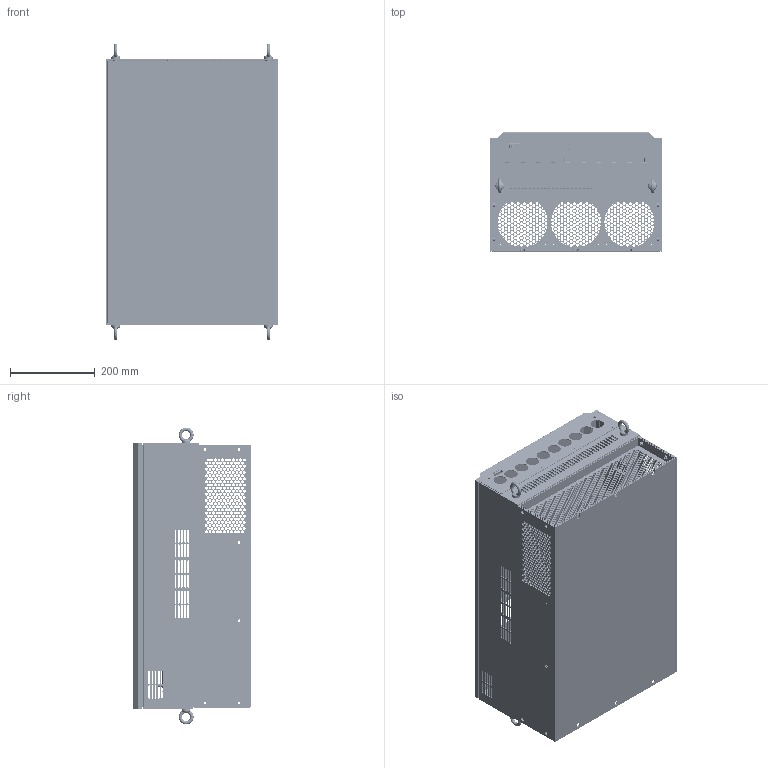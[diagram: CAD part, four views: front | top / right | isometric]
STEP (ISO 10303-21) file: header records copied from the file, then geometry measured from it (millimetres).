
FILE_DESCRIPTION((''),'2;1');
FILE_NAME('2999910087_ASM','2024-06-14T08:34:04',('dylvxj'),(''),'CREO PARAMETRIC BY PTC INC, 2020044','CREO PARAMETRIC BY PTC INC, 2020044','');
FILE_SCHEMA(('CONFIG_CONTROL_DESIGN','SHAPE_APPEARANCE_LAYERS_GROUPS'));
Products named in the file (53): 8062V1609; S_M4_2; SOO-M4-8-ZI; S-M6-2; S-M5-2; SOO-M3-18; 8062V1608_ASM; 8ZTD_024_754; 8ZTD_024_754_ASM; 8ZTD_043_740; 8ZTD_043_740_ASM; 8ZTD_043_739; 8ZTD_043_739_ASM; 8ZTD_043_741; 8ZTD_043_741_ASM; 8ZTD_043_993; 8ZTD_043_993_ASM; 8ZTD_043_737; 8ZTD_043_737_ASM; 5022V1625_ASM; 8355V1608; 8355V1612; 8355V1610; 8355V1611; 8355V1607_ASM; 8ZTD_043_992; 8ZTD_043_992_ASM; GB-T825; QIPINGLUOMU6; 5355V1626_ASM; 8ZTD_060_183; 5048V1624; SOO-M3-5; SOO-M3-13; 5048V1624_ASM; 8ZTD_048_131; S00-M4-10; 8ZTD_048_131_ASM; 8ZTD_312_085; 8ZTD_130_095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
Assembly tree (159 placements, depth 4):
  2999910087_ASM
    5022V1625_ASM
      8062V1608_ASM
        8062V1609
        S_M4_2  x12
        SOO-M4-8-ZI  x2
        S-M6-2  x4
        S-M5-2  x5
        SOO-M3-18  x3
      8ZTD_024_754_ASM
        8ZTD_024_754
        S-M6-2  x4
      8ZTD_043_740_ASM
        8ZTD_043_740
        S-M5-2  x3
      8ZTD_043_739_ASM
        8ZTD_043_739
        S-M5-2  x3
      8ZTD_043_741_ASM
        8ZTD_043_741
        S-M5-2  x2
      8ZTD_043_993_ASM
        8ZTD_043_993
        S-M5-2  x2
      8ZTD_043_737_ASM
        8ZTD_043_737
        S_M4_2  x2
    5355V1626_ASM
      8355V1607_ASM
        8355V1608
        8355V1612
        8355V1610
        8355V1611
        S-M6-2  x4
        S_M4_2  x14
      8ZTD_043_992_ASM  x4
        8ZTD_043_992
        S_M4_2
      GB-T825  x4
      QIPINGLUOMU6  x2
    8ZTD_060_183
    5048V1624_ASM
      5048V1624
      SOO-M3-5  x4
      SOO-M3-13  x6
    8ZTD_048_131_ASM
      8ZTD_048_131
      S00-M4-10  x4
    5ZTD_312_015_ASM
      8ZTD_312_085
      8ZTD_130_095
      8ZTD_130_050
      QIPINGLUOMU5
    5ZTD_312_016_ASM
      8ZTD_312_086
      8ZTD_130_111
      QIPINGLUOMU5
    8ZTD_325_215_ASM
      8ZTD_325_215
      S-M6-2  x4
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Bounding box: 406 x 280.29 x 699.91 mm (x, y, z)
Volume: 2968946.5 mm3; surface area: 3438153.9 mm2
Topology: 144 solids, 282 shells, 22955 faces, 65145 edges, 43206 vertices
Faces by surface type: plane 21021, cylinder 1892, torus 16, cone 16, bspline 10
Entity records: 403287 total; most frequent: CARTESIAN_POINT 56540, ORIENTED_EDGE 55422, DIRECTION 50199, EDGE_CURVE 27877, PRESENTATION_STYLE_ASSIGNMENT 27507, STYLED_ITEM 27481, CURVE_STYLE 27371, VECTOR 25503
